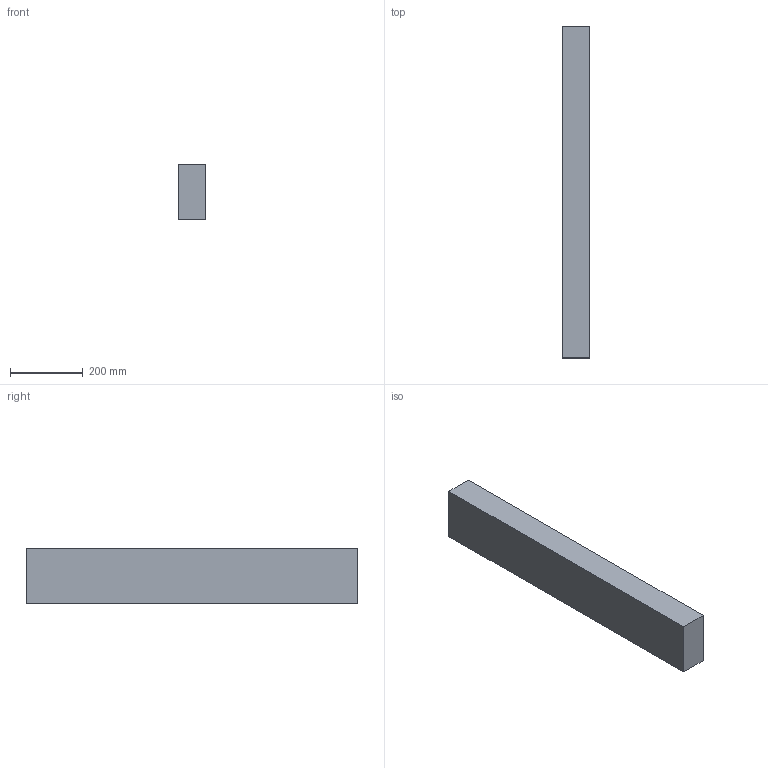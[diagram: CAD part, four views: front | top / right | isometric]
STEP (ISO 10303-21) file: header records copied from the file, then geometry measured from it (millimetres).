
FILE_DESCRIPTION(/* description */ (''),/* implementation_level */ '2;1');
FILE_NAME(/* name */ '3x6x36',/* time_stamp */ '2024-09-20T11:43:24-05:00',/* author */ (''),/* organization */ (''),/* preprocessor_version */ 'ST-DEVELOPER v19.2',/* originating_system */ 'Rhino 8.5',/* authorisation */ '');
FILE_SCHEMA (('CONFIG_CONTROL_DESIGN'));
Length unit declared in the file: inch
Products named in the file (1): Document
Bounding box: 76.2 x 914.4 x 152.4 mm (x, y, z)
Volume: 10618817.5 mm3; surface area: 441289.4 mm2
Topology: 1 solids, 1 shells, 6 faces, 12 edges, 8 vertices
Faces by surface type: plane 6
Entity records: 226 total; most frequent: CARTESIAN_POINT 40, ORIENTED_EDGE 24, EDGE_CURVE 12, B_SPLINE_CURVE_WITH_KNOTS 12, DIRECTION 10, VERTEX_POINT 8, AXIS2_PLACEMENT_3D 8, ORGANIZATION 7
